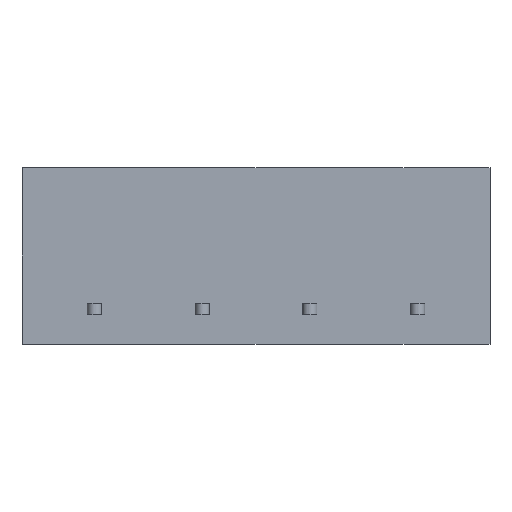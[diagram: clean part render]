
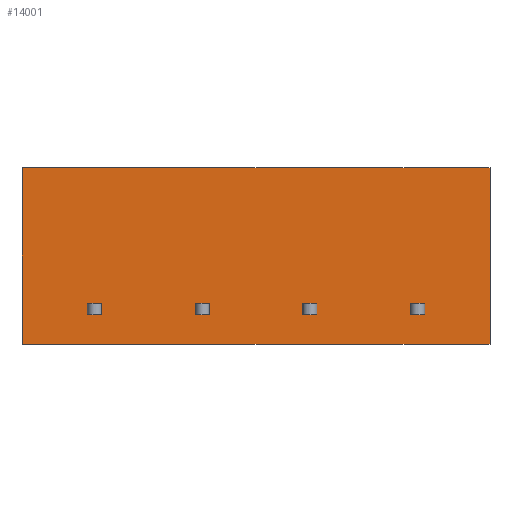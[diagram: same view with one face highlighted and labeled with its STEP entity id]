
A CAD part, front view. The second image highlights one B-rep face of the part: STEP entity #14001.
In plain terms, the highlighted planar face has unit normal (0, -1, 0).
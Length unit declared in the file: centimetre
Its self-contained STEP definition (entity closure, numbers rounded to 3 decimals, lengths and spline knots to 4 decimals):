
#925=VERTEX_POINT('',#17747);
#926=VERTEX_POINT('',#17748);
#929=VERTEX_POINT('',#17756);
#931=VERTEX_POINT('',#17762);
#1282=VERTEX_POINT('',#19310);
#1283=VERTEX_POINT('',#19312);
#1426=VERTEX_POINT('',#19822);
#1427=VERTEX_POINT('',#19823);
#1434=VERTEX_POINT('',#19839);
#1448=VERTEX_POINT('',#19871);
#1601=VERTEX_POINT('',#20431);
#1602=VERTEX_POINT('',#20432);
#1609=VERTEX_POINT('',#20448);
#1623=VERTEX_POINT('',#20480);
#1776=VERTEX_POINT('',#21040);
#1777=VERTEX_POINT('',#21041);
#1784=VERTEX_POINT('',#21057);
#1798=VERTEX_POINT('',#21089);
#2165=VERTEX_POINT('',#22693);
#2166=VERTEX_POINT('',#22695);
#2304=VECTOR('',#14851,1.);
#2307=VECTOR('',#14857,1.);
#2310=VECTOR('',#14861,1.);
#2328=VECTOR('',#14887,1.);
#2731=VECTOR('',#15446,1.);
#2868=VECTOR('',#15768,1.);
#2876=VECTOR('',#15777,1.);
#2890=VECTOR('',#15797,1.);
#2893=VECTOR('',#15805,1.);
#3048=VECTOR('',#16167,1.);
#3056=VECTOR('',#16176,1.);
#3070=VECTOR('',#16196,1.);
#3073=VECTOR('',#16204,1.);
#3228=VECTOR('',#16566,1.);
#3236=VECTOR('',#16575,1.);
#3250=VECTOR('',#16595,1.);
#3253=VECTOR('',#16603,1.);
#3697=VECTOR('',#17227,1.);
#3707=VECTOR('',#17242,1.);
#3708=VECTOR('',#17244,1.);
#3844=LINE('',#17746,#2304);
#3847=LINE('',#17755,#2307);
#3850=LINE('',#17761,#2310);
#3868=LINE('',#17800,#2328);
#4271=LINE('',#19311,#2731);
#4408=LINE('',#19821,#2868);
#4416=LINE('',#19838,#2876);
#4430=LINE('',#19870,#2890);
#4433=LINE('',#19878,#2893);
#4588=LINE('',#20430,#3048);
#4596=LINE('',#20447,#3056);
#4610=LINE('',#20479,#3070);
#4613=LINE('',#20487,#3073);
#4768=LINE('',#21039,#3228);
#4776=LINE('',#21056,#3236);
#4790=LINE('',#21088,#3250);
#4793=LINE('',#21096,#3253);
#5237=LINE('',#22694,#3697);
#5247=LINE('',#22713,#3707);
#5248=LINE('',#22715,#3708);
#5459=EDGE_CURVE('',#925,#926,#3844,.T.);
#5463=EDGE_CURVE('',#926,#929,#3847,.T.);
#5466=EDGE_CURVE('',#929,#931,#3850,.T.);
#5485=EDGE_CURVE('',#931,#925,#3868,.T.);
#5998=EDGE_CURVE('',#1283,#1282,#4271,.T.);
#6214=EDGE_CURVE('',#1426,#1427,#4408,.T.);
#6222=EDGE_CURVE('',#1434,#1426,#4416,.T.);
#6237=EDGE_CURVE('',#1427,#1448,#4430,.T.);
#6241=EDGE_CURVE('',#1448,#1434,#4433,.T.);
#6479=EDGE_CURVE('',#1601,#1602,#4588,.T.);
#6487=EDGE_CURVE('',#1609,#1601,#4596,.T.);
#6502=EDGE_CURVE('',#1602,#1623,#4610,.T.);
#6506=EDGE_CURVE('',#1623,#1609,#4613,.T.);
#6744=EDGE_CURVE('',#1776,#1777,#4768,.T.);
#6752=EDGE_CURVE('',#1784,#1776,#4776,.T.);
#6767=EDGE_CURVE('',#1777,#1798,#4790,.T.);
#6771=EDGE_CURVE('',#1798,#1784,#4793,.T.);
#7329=EDGE_CURVE('',#2166,#2165,#5237,.T.);
#7339=EDGE_CURVE('',#2166,#1282,#5247,.T.);
#7340=EDGE_CURVE('',#2165,#1283,#5248,.T.);
#11478=ORIENTED_EDGE('',*,*,#5466,.F.);
#11479=ORIENTED_EDGE('',*,*,#5463,.F.);
#11480=ORIENTED_EDGE('',*,*,#5459,.F.);
#11481=ORIENTED_EDGE('',*,*,#5485,.F.);
#11482=ORIENTED_EDGE('',*,*,#6222,.T.);
#11483=ORIENTED_EDGE('',*,*,#6214,.T.);
#11484=ORIENTED_EDGE('',*,*,#6237,.T.);
#11485=ORIENTED_EDGE('',*,*,#6241,.T.);
#11486=ORIENTED_EDGE('',*,*,#6487,.T.);
#11487=ORIENTED_EDGE('',*,*,#6479,.T.);
#11488=ORIENTED_EDGE('',*,*,#6502,.T.);
#11489=ORIENTED_EDGE('',*,*,#6506,.T.);
#11490=ORIENTED_EDGE('',*,*,#6752,.T.);
#11491=ORIENTED_EDGE('',*,*,#6744,.T.);
#11492=ORIENTED_EDGE('',*,*,#6767,.T.);
#11493=ORIENTED_EDGE('',*,*,#6771,.T.);
#11494=ORIENTED_EDGE('',*,*,#7329,.T.);
#11495=ORIENTED_EDGE('',*,*,#7340,.T.);
#11496=ORIENTED_EDGE('',*,*,#5998,.T.);
#11497=ORIENTED_EDGE('',*,*,#7339,.F.);
#12369=EDGE_LOOP('',(#11478,#11479,#11480,#11481));
#12370=EDGE_LOOP('',(#11482,#11483,#11484,#11485));
#12371=EDGE_LOOP('',(#11486,#11487,#11488,#11489));
#12372=EDGE_LOOP('',(#11490,#11491,#11492,#11493));
#12373=EDGE_LOOP('',(#11494,#11495,#11496,#11497));
#13219=FACE_BOUND('',#12369,.T.);
#13220=FACE_BOUND('',#12370,.T.);
#13221=FACE_BOUND('',#12371,.T.);
#13222=FACE_BOUND('',#12372,.T.);
#13223=FACE_BOUND('',#12373,.T.);
#14001=ADVANCED_FACE('',(#13219,#13220,#13221,#13222,#13223),#14541,.T.);
#14541=PLANE('',#23571);
#14851=DIRECTION('',(-1.,0.,0.));
#14857=DIRECTION('',(0.,0.,-1.));
#14861=DIRECTION('',(1.,0.,0.));
#14887=DIRECTION('',(0.,0.,1.));
#15446=DIRECTION('',(0.,0.,1.));
#15768=DIRECTION('',(0.,0.,1.));
#15777=DIRECTION('',(-1.,0.,0.));
#15797=DIRECTION('',(1.,0.,0.));
#15805=DIRECTION('',(0.,0.,-1.));
#16167=DIRECTION('',(0.,0.,1.));
#16176=DIRECTION('',(-1.,0.,0.));
#16196=DIRECTION('',(1.,0.,0.));
#16204=DIRECTION('',(0.,0.,-1.));
#16566=DIRECTION('',(0.,0.,1.));
#16575=DIRECTION('',(-1.,0.,0.));
#16595=DIRECTION('',(1.,0.,0.));
#16603=DIRECTION('',(0.,0.,-1.));
#17227=DIRECTION('',(0.,0.,-1.));
#17242=DIRECTION('',(1.,0.,0.));
#17243=DIRECTION('',(0.,-1.,0.));
#17244=DIRECTION('',(1.,0.,0.));
#17746=CARTESIAN_POINT('',(-0.465,0.,-0.335));
#17747=CARTESIAN_POINT('',(-0.26,0.,-0.335));
#17748=CARTESIAN_POINT('',(-0.36,0.,-0.335));
#17755=CARTESIAN_POINT('',(-0.36,0.,-0.1875));
#17756=CARTESIAN_POINT('',(-0.36,0.,-0.415));
#17761=CARTESIAN_POINT('',(-0.465,0.,-0.415));
#17762=CARTESIAN_POINT('',(-0.26,0.,-0.415));
#17800=CARTESIAN_POINT('',(-0.26,0.,-0.1875));
#19310=CARTESIAN_POINT('',(2.488,0.,0.625));
#19311=CARTESIAN_POINT('',(2.488,0.,0.625));
#19312=CARTESIAN_POINT('',(2.488,0.,-0.625));
#19821=CARTESIAN_POINT('',(1.926,0.,-0.1875));
#19822=CARTESIAN_POINT('',(1.926,0.,-0.415));
#19823=CARTESIAN_POINT('',(1.926,0.,-0.335));
#19838=CARTESIAN_POINT('',(0.988,0.,-0.415));
#19839=CARTESIAN_POINT('',(2.026,0.,-0.415));
#19870=CARTESIAN_POINT('',(0.988,0.,-0.335));
#19871=CARTESIAN_POINT('',(2.026,0.,-0.335));
#19878=CARTESIAN_POINT('',(2.026,0.,-0.1875));
#20430=CARTESIAN_POINT('',(1.164,0.,-0.1875));
#20431=CARTESIAN_POINT('',(1.164,0.,-0.415));
#20432=CARTESIAN_POINT('',(1.164,0.,-0.335));
#20447=CARTESIAN_POINT('',(0.607,0.,-0.415));
#20448=CARTESIAN_POINT('',(1.264,0.,-0.415));
#20479=CARTESIAN_POINT('',(0.607,0.,-0.335));
#20480=CARTESIAN_POINT('',(1.264,0.,-0.335));
#20487=CARTESIAN_POINT('',(1.264,0.,-0.1875));
#21039=CARTESIAN_POINT('',(0.402,0.,-0.1875));
#21040=CARTESIAN_POINT('',(0.402,0.,-0.415));
#21041=CARTESIAN_POINT('',(0.402,0.,-0.335));
#21056=CARTESIAN_POINT('',(0.226,0.,-0.415));
#21057=CARTESIAN_POINT('',(0.502,0.,-0.415));
#21088=CARTESIAN_POINT('',(0.226,0.,-0.335));
#21089=CARTESIAN_POINT('',(0.502,0.,-0.335));
#21096=CARTESIAN_POINT('',(0.502,0.,-0.1875));
#22693=CARTESIAN_POINT('',(-0.822,0.,-0.625));
#22694=CARTESIAN_POINT('',(-0.822,0.,-0.625));
#22695=CARTESIAN_POINT('',(-0.822,0.,0.625));
#22713=CARTESIAN_POINT('',(-0.762,0.,0.625));
#22714=CARTESIAN_POINT('',(-0.762,0.,0.));
#22715=CARTESIAN_POINT('',(-0.762,0.,-0.625));
#23571=AXIS2_PLACEMENT_3D('',#22714,#17243,$);
